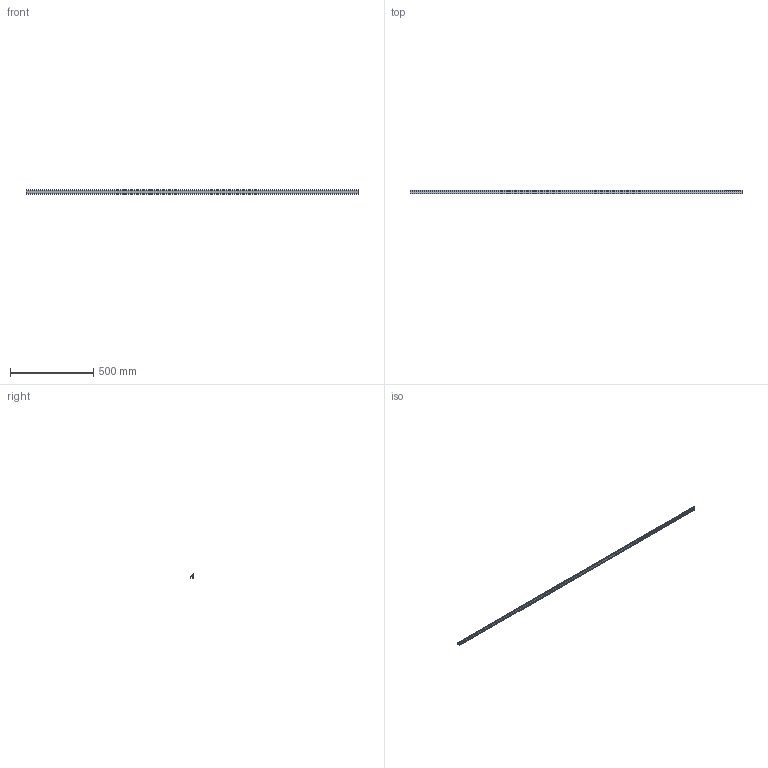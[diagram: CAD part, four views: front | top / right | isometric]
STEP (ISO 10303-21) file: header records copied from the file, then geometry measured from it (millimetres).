
FILE_DESCRIPTION (( 'STEP AP214' ), '1' );
FILE_NAME ('F50826A.step', '2024-12-03T16:18:11', ( '' ), ( '' ), 'SwSTEP 2.0', 'SolidWorks 2023', '' );
FILE_SCHEMA (( 'AUTOMOTIVE_DESIGN' ));
Length unit declared in the file: millimetre
Products named in the file (3): F50826A; F50826A-1; F50826A-2
Assembly tree (2 placements, depth 2):
  F50826A
    F50826A-1
    F50826A-2
Bounding box: 2000 x 21.8 x 25.03 mm (x, y, z)
Volume: 314846.1 mm3; surface area: 445047.6 mm2
Topology: 3 solids, 3 shells, 73 faces, 201 edges, 134 vertices
Faces by surface type: plane 54, cylinder 19
Entity records: 2414 total; most frequent: CARTESIAN_POINT 413, ORIENTED_EDGE 402, DIRECTION 395, EDGE_CURVE 201, VECTOR 163, LINE 163, VERTEX_POINT 134, AXIS2_PLACEMENT_3D 116
